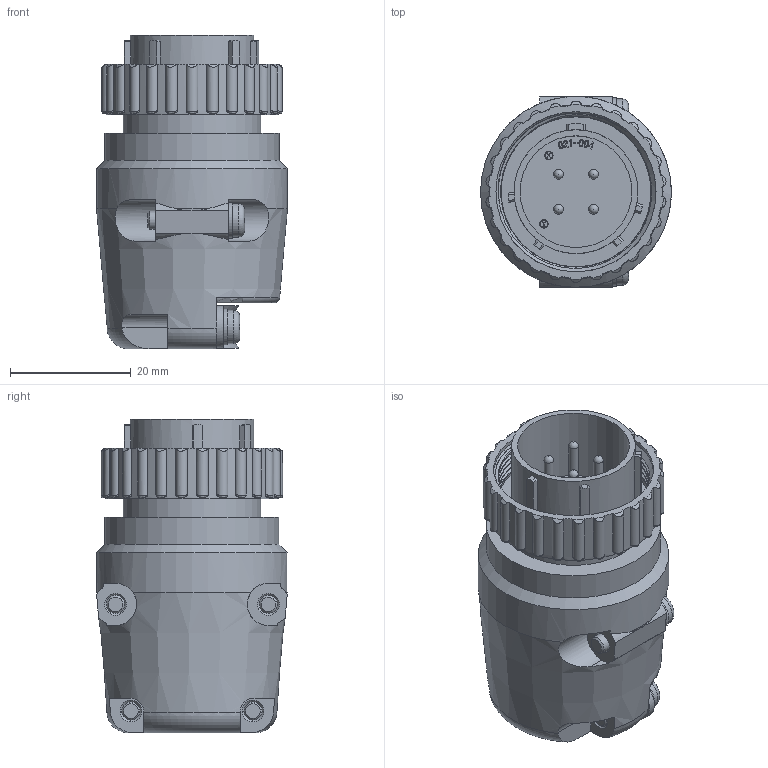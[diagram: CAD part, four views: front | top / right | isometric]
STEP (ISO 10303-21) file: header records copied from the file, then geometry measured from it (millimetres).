
FILE_DESCRIPTION (( 'STEP AP203' ), '1' );
FILE_NAME ('JMSP2104MM-D.STEP', '2021-07-07T06:22:37', ( '' ), ( '' ), 'SwSTEP 2.0', 'SolidWorks 2018', '' );
FILE_SCHEMA (( 'CONFIG_CONTROL_DESIGN' ));
Length unit declared in the file: millimetre
Products named in the file (1): JMSP2104MM-D
Bounding box: 31.6 x 31.57 x 51.9 mm (x, y, z)
Volume: 15547.1 mm3; surface area: 13426.2 mm2
Topology: 1 solids, 1 shells, 783 faces, 2130 edges, 1397 vertices
Faces by surface type: plane 377, cylinder 181, bspline 151, cone 52, torus 18, sphere 4
Full cylindrical faces by diameter (mm): 1.2 x3, 1.4 x3, 1.6 x4, 1.7 x4, 2.4 x4, 3 x4, 5.5 x4, 15.2 x1, 17 x1, 18.5 x1, 20.1 x1, 20.5 x1, 22.7 x1, 22.8 x1, 24.8 x1, 26.1 x1, 26.2 x1, 26.5 x1, 28.5 x1, 28.8 x1, 31.6 x1
Entity records: 35016 total; most frequent: CARTESIAN_POINT 16940, ORIENTED_EDGE 4052, DIRECTION 3144, EDGE_CURVE 2026, VERTEX_POINT 1363, AXIS2_PLACEMENT_3D 1066, VECTOR 1012, LINE 1012
